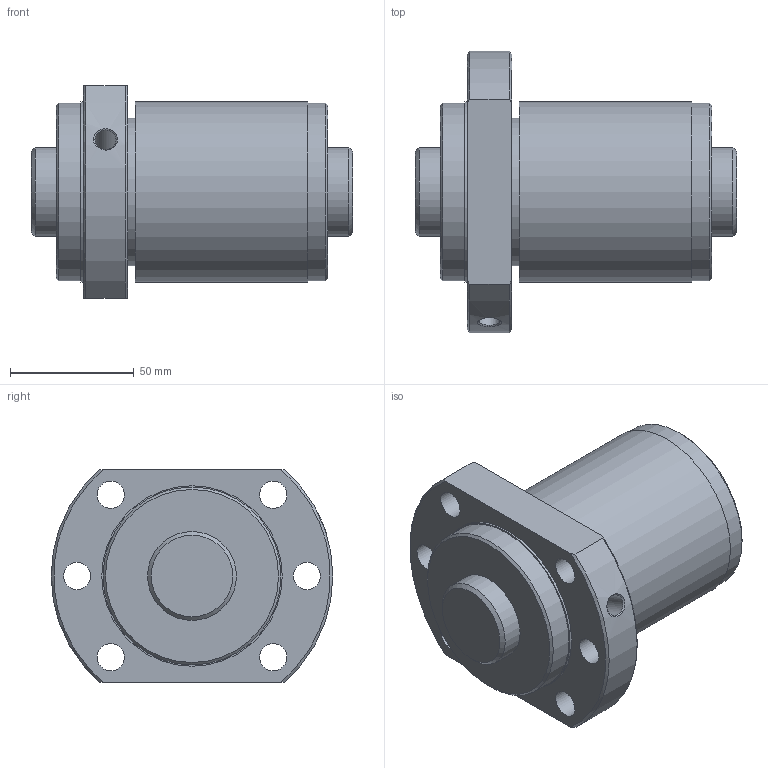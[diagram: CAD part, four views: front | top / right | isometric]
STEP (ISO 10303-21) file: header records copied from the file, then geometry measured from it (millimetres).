
FILE_DESCRIPTION(/* description */ ('STEP AP203'),/* implementation_level */ '2;1');
FILE_NAME(/* name */ 'SBK3620-7.6RRG0+130LC0(0000)',/* time_stamp */ '2024-05-28T11:20:03+02:00',/* author */ ('License CC BY-ND 4.0'),/* organization */ ('CADENAS'),/* preprocessor_version */ 'ST-DEVELOPER v19.3',/* originating_system */ 'PARTsolutions',/* authorisation */ ' ');
FILE_SCHEMA (('CONFIG_CONTROL_DESIGN'));
Length unit declared in the file: millimetre
Products named in the file (3): SBK3620-7.6RRG0+130LC0(0000); NRR000SBK3620-7.60Shaft; NRR000SBK3620-7.6Nut
Assembly tree (2 placements, depth 2):
  SBK3620-7.6RRG0+130LC0(0000)
    NRR000SBK3620-7.60Shaft
    NRR000SBK3620-7.6Nut
Bounding box: 130 x 114 x 86 mm (x, y, z)
Volume: 544693.4 mm3; surface area: 77121.8 mm2
Topology: 2 solids, 2 shells, 37 faces, 80 edges, 52 vertices
Faces by surface type: cylinder 16, plane 11, cone 10
Full cylindrical faces by diameter (mm): 8.566 x1, 11 x6, 36 x2, 59.714 x1, 72 x2, 73 x2
Entity records: 1021 total; most frequent: CARTESIAN_POINT 184, DIRECTION 168, ORIENTED_EDGE 114, AXIS2_PLACEMENT_3D 80, FACE_BOUND 77, EDGE_LOOP 76, EDGE_CURVE 57, VERTEX_POINT 50
